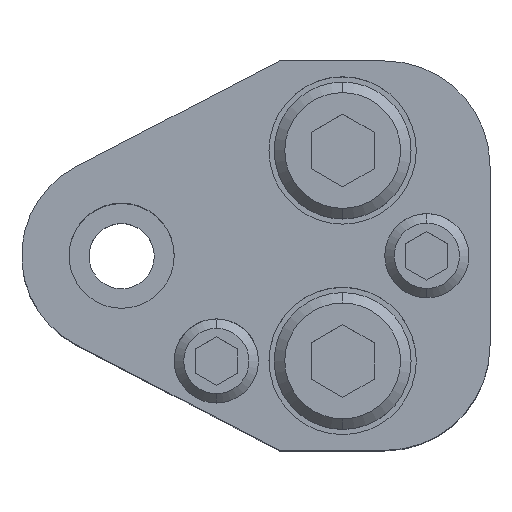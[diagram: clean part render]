
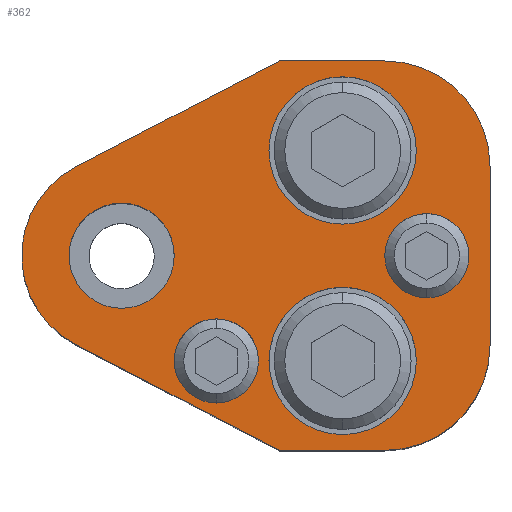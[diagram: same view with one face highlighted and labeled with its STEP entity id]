
A CAD part, top view. The second image highlights one B-rep face of the part: STEP entity #362.
In plain terms, the highlighted planar face has unit normal (0, 0, 1).
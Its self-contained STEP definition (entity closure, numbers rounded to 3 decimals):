
#134=PLANE('',#2717);
#203=FACE_BOUND('',#693,.T.);
#204=FACE_BOUND('',#694,.T.);
#205=FACE_BOUND('',#695,.T.);
#206=FACE_BOUND('',#696,.T.);
#207=FACE_BOUND('',#697,.T.);
#208=FACE_BOUND('',#698,.T.);
#362=ADVANCED_FACE('',(#203,#204,#205,#206,#207,#208),#134,.T.);
#693=EDGE_LOOP('',(#1255,#1256,#1257,#1258,#1259,#1260,#1261,#1262));
#694=EDGE_LOOP('',(#1263,#1264));
#695=EDGE_LOOP('',(#1265,#1266));
#696=EDGE_LOOP('',(#1267,#1268));
#697=EDGE_LOOP('',(#1269,#1270));
#698=EDGE_LOOP('',(#1271,#1272));
#845=CIRCLE('',#2656,9.5);
#847=CIRCLE('',#2661,10.);
#849=CIRCLE('',#2665,10.);
#867=CIRCLE('',#2693,7.);
#869=CIRCLE('',#2696,7.);
#871=CIRCLE('',#2700,7.);
#873=CIRCLE('',#2703,7.);
#877=CIRCLE('',#2711,4.);
#878=CIRCLE('',#2712,4.);
#879=CIRCLE('',#2713,4.);
#880=CIRCLE('',#2714,4.);
#881=CIRCLE('',#2715,5.);
#882=CIRCLE('',#2716,5.);
#1255=ORIENTED_EDGE('',*,*,#1942,.T.);
#1256=ORIENTED_EDGE('',*,*,#1946,.T.);
#1257=ORIENTED_EDGE('',*,*,#1949,.T.);
#1258=ORIENTED_EDGE('',*,*,#1952,.T.);
#1259=ORIENTED_EDGE('',*,*,#1955,.T.);
#1260=ORIENTED_EDGE('',*,*,#1958,.T.);
#1261=ORIENTED_EDGE('',*,*,#1961,.T.);
#1262=ORIENTED_EDGE('',*,*,#1964,.T.);
#1263=ORIENTED_EDGE('',*,*,#2003,.F.);
#1264=ORIENTED_EDGE('',*,*,#2004,.F.);
#1265=ORIENTED_EDGE('',*,*,#2005,.F.);
#1266=ORIENTED_EDGE('',*,*,#2006,.F.);
#1267=ORIENTED_EDGE('',*,*,#1997,.F.);
#1268=ORIENTED_EDGE('',*,*,#1993,.F.);
#1269=ORIENTED_EDGE('',*,*,#1991,.F.);
#1270=ORIENTED_EDGE('',*,*,#1987,.F.);
#1271=ORIENTED_EDGE('',*,*,#2007,.T.);
#1272=ORIENTED_EDGE('',*,*,#2008,.T.);
#1686=VERTEX_POINT('',#3916);
#1687=VERTEX_POINT('',#3918);
#1690=VERTEX_POINT('',#3925);
#1692=VERTEX_POINT('',#3931);
#1694=VERTEX_POINT('',#3937);
#1696=VERTEX_POINT('',#3943);
#1698=VERTEX_POINT('',#3949);
#1700=VERTEX_POINT('',#3955);
#1717=VERTEX_POINT('',#4008);
#1718=VERTEX_POINT('',#4009);
#1721=VERTEX_POINT('',#4021);
#1722=VERTEX_POINT('',#4022);
#1727=VERTEX_POINT('',#4042);
#1728=VERTEX_POINT('',#4043);
#1729=VERTEX_POINT('',#4046);
#1730=VERTEX_POINT('',#4047);
#1731=VERTEX_POINT('',#4050);
#1732=VERTEX_POINT('',#4051);
#1942=EDGE_CURVE('',#1687,#1686,#845,.T.);
#1946=EDGE_CURVE('',#1686,#1690,#2226,.T.);
#1949=EDGE_CURVE('',#1690,#1692,#2229,.T.);
#1952=EDGE_CURVE('',#1692,#1694,#847,.T.);
#1955=EDGE_CURVE('',#1694,#1696,#2233,.T.);
#1958=EDGE_CURVE('',#1696,#1698,#849,.T.);
#1961=EDGE_CURVE('',#1698,#1700,#2237,.T.);
#1964=EDGE_CURVE('',#1700,#1687,#2240,.T.);
#1987=EDGE_CURVE('',#1717,#1718,#867,.T.);
#1991=EDGE_CURVE('',#1718,#1717,#869,.T.);
#1993=EDGE_CURVE('',#1721,#1722,#871,.T.);
#1997=EDGE_CURVE('',#1722,#1721,#873,.T.);
#2003=EDGE_CURVE('',#1727,#1728,#877,.T.);
#2004=EDGE_CURVE('',#1728,#1727,#878,.T.);
#2005=EDGE_CURVE('',#1729,#1730,#879,.T.);
#2006=EDGE_CURVE('',#1730,#1729,#880,.T.);
#2007=EDGE_CURVE('',#1731,#1732,#881,.T.);
#2008=EDGE_CURVE('',#1732,#1731,#882,.T.);
#2226=LINE('',#3926,#2416);
#2229=LINE('',#3932,#2419);
#2233=LINE('',#3944,#2423);
#2237=LINE('',#3956,#2427);
#2240=LINE('',#3960,#2430);
#2416=VECTOR('',#3113,1.);
#2419=VECTOR('',#3118,1.);
#2423=VECTOR('',#3130,1.);
#2427=VECTOR('',#3142,1.);
#2430=VECTOR('',#3147,1.);
#2656=AXIS2_PLACEMENT_3D('',#3917,#3105,#3106);
#2661=AXIS2_PLACEMENT_3D('',#3938,#3123,#3124);
#2665=AXIS2_PLACEMENT_3D('',#3950,#3135,#3136);
#2693=AXIS2_PLACEMENT_3D('',#4007,#3202,#3203);
#2696=AXIS2_PLACEMENT_3D('',#4016,#3210,#3211);
#2700=AXIS2_PLACEMENT_3D('',#4020,#3218,#3219);
#2703=AXIS2_PLACEMENT_3D('',#4029,#3226,#3227);
#2711=AXIS2_PLACEMENT_3D('',#4041,#3244,#3245);
#2712=AXIS2_PLACEMENT_3D('',#4044,#3246,#3247);
#2713=AXIS2_PLACEMENT_3D('',#4045,#3248,#3249);
#2714=AXIS2_PLACEMENT_3D('',#4048,#3250,#3251);
#2715=AXIS2_PLACEMENT_3D('',#4049,#3252,#3253);
#2716=AXIS2_PLACEMENT_3D('',#4052,#3254,#3255);
#2717=AXIS2_PLACEMENT_3D('',#4053,#3256,#3257);
#3105=DIRECTION('',(0.,0.,1.));
#3106=DIRECTION('',(-0.106,0.994,0.));
#3113=DIRECTION('',(0.887,-0.461,0.));
#3118=DIRECTION('',(1.,0.,0.));
#3123=DIRECTION('',(0.,0.,1.));
#3124=DIRECTION('',(-0.707,0.707,0.));
#3130=DIRECTION('',(0.,1.,0.));
#3135=DIRECTION('',(0.,0.,1.));
#3136=DIRECTION('',(-0.707,-0.707,0.));
#3142=DIRECTION('',(-1.,0.,0.));
#3147=DIRECTION('',(-0.887,-0.461,0.));
#3202=DIRECTION('',(0.,0.,1.));
#3203=DIRECTION('',(-1.,0.,0.));
#3210=DIRECTION('',(0.,0.,1.));
#3211=DIRECTION('',(1.,0.,0.));
#3218=DIRECTION('',(0.,0.,1.));
#3219=DIRECTION('',(-1.,0.,0.));
#3226=DIRECTION('',(0.,0.,1.));
#3227=DIRECTION('',(1.,0.,0.));
#3244=DIRECTION('',(0.,0.,1.));
#3245=DIRECTION('',(1.,0.,0.));
#3246=DIRECTION('',(0.,0.,1.));
#3247=DIRECTION('',(-1.,0.,0.));
#3248=DIRECTION('',(0.,0.,1.));
#3249=DIRECTION('',(1.,0.,0.));
#3250=DIRECTION('',(0.,0.,1.));
#3251=DIRECTION('',(-1.,0.,0.));
#3252=DIRECTION('',(0.,0.,-1.));
#3253=DIRECTION('',(-1.,0.,0.));
#3254=DIRECTION('',(0.,0.,-1.));
#3255=DIRECTION('',(1.,0.,0.));
#3256=DIRECTION('',(0.,0.,1.));
#3257=DIRECTION('',(0.887,0.461,0.));
#3916=CARTESIAN_POINT('',(-4.38,-8.43,35.));
#3917=CARTESIAN_POINT('',(0.,0.,35.));
#3918=CARTESIAN_POINT('',(-4.38,8.43,35.));
#3925=CARTESIAN_POINT('',(15.,-18.5,35.));
#3926=CARTESIAN_POINT('',(15.,-18.5,35.));
#3931=CARTESIAN_POINT('',(25.,-18.5,35.));
#3932=CARTESIAN_POINT('',(25.,-18.5,35.));
#3937=CARTESIAN_POINT('',(35.,-8.5,35.));
#3938=CARTESIAN_POINT('',(25.,-8.5,35.));
#3943=CARTESIAN_POINT('',(35.,8.5,35.));
#3944=CARTESIAN_POINT('',(35.,8.5,35.));
#3949=CARTESIAN_POINT('',(25.,18.5,35.));
#3950=CARTESIAN_POINT('',(25.,8.5,35.));
#3955=CARTESIAN_POINT('',(15.,18.5,35.));
#3956=CARTESIAN_POINT('',(25.,18.5,35.));
#3960=CARTESIAN_POINT('',(15.,18.5,35.));
#4007=CARTESIAN_POINT('',(21.,10.,35.));
#4008=CARTESIAN_POINT('',(21.,3.,35.));
#4009=CARTESIAN_POINT('',(21.,17.,35.));
#4016=CARTESIAN_POINT('',(21.,10.,35.));
#4020=CARTESIAN_POINT('',(21.,-10.,35.));
#4021=CARTESIAN_POINT('',(21.,-17.,35.));
#4022=CARTESIAN_POINT('',(21.,-3.,35.));
#4029=CARTESIAN_POINT('',(21.,-10.,35.));
#4041=CARTESIAN_POINT('',(9.,-10.,35.));
#4042=CARTESIAN_POINT('',(9.,-6.,35.));
#4043=CARTESIAN_POINT('',(9.,-14.,35.));
#4044=CARTESIAN_POINT('',(9.,-10.,35.));
#4045=CARTESIAN_POINT('',(29.,0.,35.));
#4046=CARTESIAN_POINT('',(29.,4.,35.));
#4047=CARTESIAN_POINT('',(29.,-4.,35.));
#4048=CARTESIAN_POINT('',(29.,0.,35.));
#4049=CARTESIAN_POINT('',(0.,0.,35.));
#4050=CARTESIAN_POINT('',(0.,5.,35.));
#4051=CARTESIAN_POINT('',(0.,-5.,35.));
#4052=CARTESIAN_POINT('',(0.,0.,35.));
#4053=CARTESIAN_POINT('',(-4.38,8.43,35.));
